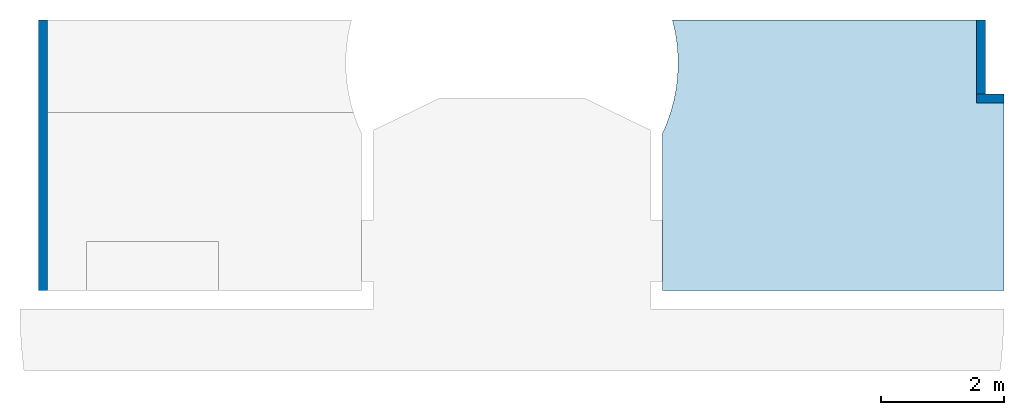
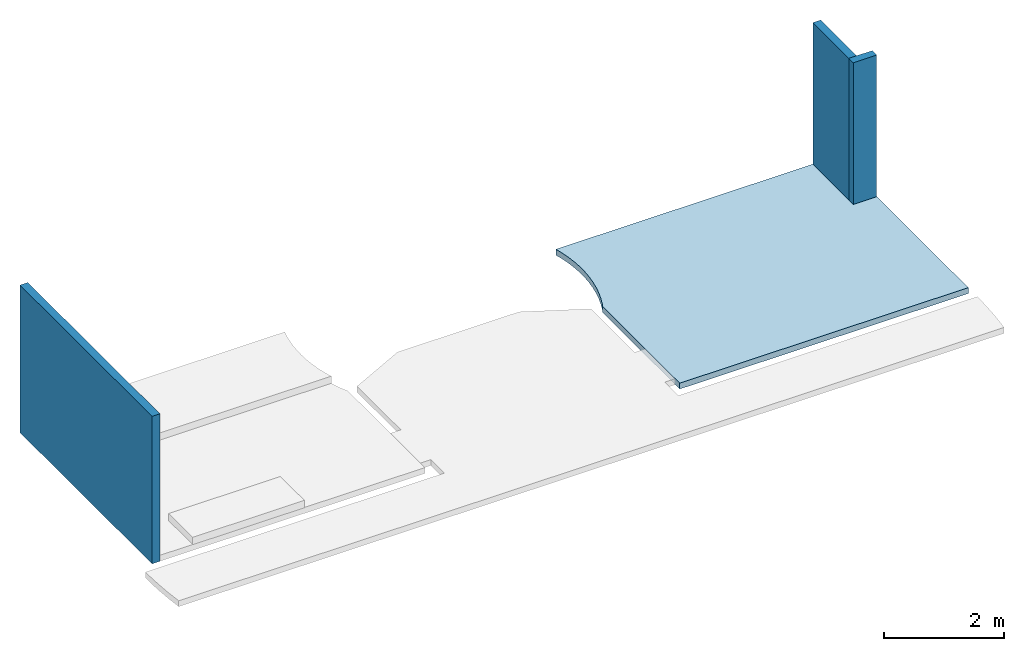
# One storey, part 3 of 3: 3 walls, 1 slab.
"""IFC4 building model written with IfcOpenShell, lengths in millimetres."""

from ifc_helpers import new_model, entity, si_unit, converted_unit, derived_unit, direction, frame, origin_with_axes, place, context, subcontext, project, spatial, polygons, material, constituent, constituent_set, type_object, element, save


model = new_model("IFC4")

# Units and contexts
model_context = context("Model", 3, precision=0.01, world=origin_with_axes(), true_north=direction((0.0, 1.0)))
body_context = subcontext(model_context, "Body", "Model", "MODEL_VIEW")
ifc_project = project(units=[si_unit("LENGTHUNIT", "METRE", prefix="MILLI"), si_unit("AREAUNIT", "SQUARE_METRE"), si_unit("VOLUMEUNIT", "CUBIC_METRE"), converted_unit("PLANEANGLEUNIT", "DEGREE", entity("IfcPlaneAngleMeasure", 0.0174532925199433), si_unit("PLANEANGLEUNIT", "RADIAN"), dimensions=[0, 0, 0, 0, 0, 0, 0]), converted_unit("TIMEUNIT", "Year", entity("IfcTimeMeasure", 31557600.0), si_unit("TIMEUNIT", "SECOND"), dimensions=[0, 0, 1, 0, 0, 0, 0]), si_unit("MASSUNIT", "GRAM", prefix="KILO"), si_unit("THERMODYNAMICTEMPERATUREUNIT", "DEGREE_CELSIUS"), si_unit("LUMINOUSINTENSITYUNIT", "LUMEN"), si_unit("ENERGYUNIT", "JOULE", prefix="MEGA"), derived_unit("THERMALCONDUCTANCEUNIT", [(si_unit("POWERUNIT", "WATT"), 1), (si_unit("LENGTHUNIT", "METRE"), -1), (si_unit("THERMODYNAMICTEMPERATUREUNIT", "KELVIN"), -1)]), derived_unit("SPECIFICHEATCAPACITYUNIT", [(si_unit("ENERGYUNIT", "JOULE"), 1), (si_unit("MASSUNIT", "GRAM", prefix="KILO"), -1), (si_unit("THERMODYNAMICTEMPERATUREUNIT", "KELVIN"), -1)]), derived_unit("MASSDENSITYUNIT", [(si_unit("MASSUNIT", "GRAM", prefix="KILO"), 1), (si_unit("VOLUMEUNIT", "CUBIC_METRE"), -1)])], contexts=[model_context])

# Site, building, storey
site_placement = place(None, origin_with_axes())
site = spatial("IfcSite", under=ifc_project, at=site_placement, Name="Exteriér", CompositionType="ELEMENT")
building_placement = place(site_placement, origin_with_axes())
building = spatial("IfcBuilding", under=site, at=building_placement, Name="Univerzitní lezecké centrum", CompositionType="ELEMENT")
storey_placement = place(building_placement, frame((0.0, 0.0, 6400.0), z_axis=(0.0, 0.0, 1.0), x_axis=(1.0, 0.0, 0.0)))
storey = spatial("IfcBuildingStorey", under=building, at=storey_placement, Name="3.NP", CompositionType="ELEMENT", Elevation=6400.0)

# Slab
ifc_material_1 = material(Name="Polyuretanová stěrka")
ifc_constituent_1 = constituent(ifc_material_1, Name="Polyuretanová stěrka")
ifc_material_2 = material(Name="Penetrační nátěr pod polyuretanovou stěrku")
ifc_constituent_2 = constituent(ifc_material_2, Name="Penetrační nátěr pod polyuretanovou stěrku")
ifc_material_3 = material(Name="Samonivelační stěrková hmota")
ifc_constituent_3 = constituent(ifc_material_3, Name="Samonivelační stěrková hmota")
ifc_material_4 = material(Name="Betonová mazanina")
ifc_constituent_4 = constituent(ifc_material_4, Name="Betonová mazanina")
ifc_material_5 = material(Name="PE fólie")
ifc_constituent_5 = constituent(ifc_material_5, Name="PE fólie")
ifc_material_6 = material(Name="Akustická izolace - EPS")
ifc_constituent_6 = constituent(ifc_material_6, Name="Akustická izolace - EPS")
ifc_constituent_set_1 = constituent_set(constituents=[ifc_constituent_1, ifc_constituent_2, ifc_constituent_3, ifc_constituent_4, ifc_constituent_5, ifc_constituent_6], Name="!Podlaha v patře - polyuretanová stěrka")
slab_type = type_object("IfcSlabType", Name="!Podlaha v patře - polyuretanová stěrka 120", PredefinedType="FLOOR")
slab_placement = place(storey_placement, frame((4899.951161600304, 149.9974528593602, 0.0), z_axis=(0.0, 0.0, 1.0), x_axis=(1.0, 0.0, 0.0)))
element("IfcSlab", 1, at=slab_placement, inside=storey, type_object=slab_type, material=ifc_constituent_set_1, Name="P03", PredefinedType="FLOOR", context=body_context, shape_type="Tessellation", body=[
    polygons([(0.0, -149.9974528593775, -1.000000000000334), (0.0, -149.9974528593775, 0.0), (0.0, 0.0, 0.0), (0.0, 0.0, -1.000000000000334), (5549.900487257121, -149.9974528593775, -1.000000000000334), (5549.900487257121, -149.9974528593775, 0.0), (5549.900487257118, 2900.002547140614, 0.0), (5099.900487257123, 2900.002547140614, 0.0), (5099.900487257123, 4250.00254714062, 0.0), (157.581449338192, 4250.002547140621, 0.0), (193.554826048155, 4104.869979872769, 0.0), (222.4644651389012, 3942.67023748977, 0.0), (241.4319906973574, 3779.009745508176, 0.0), (250.3868422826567, 3614.497331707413, 0.0), (249.2957072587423, 3449.744993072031, 0.0), (238.1626447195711, 3285.36561912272, 0.0), (217.0290703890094, 3121.970711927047, 0.0), (185.9736025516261, 2960.168111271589, 0.0), (145.1117695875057, 2800.559733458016, 0.0), (94.59558019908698, 2643.739332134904, 0.0), (34.61295792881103, 2490.290289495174, 0.0), (0.0, 2415.536867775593, 0.0), (0.0, 999.9999999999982, 0.0), (0.0, 999.9999999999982, -1.000000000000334), (0.0, 2415.536867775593, -1.000000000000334), (34.61295792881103, 2490.290289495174, -1.000000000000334), (94.59558019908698, 2643.739332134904, -1.000000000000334), (145.1117695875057, 2800.559733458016, -1.000000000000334), (185.9736025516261, 2960.168111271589, -1.000000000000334), (217.0290703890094, 3121.970711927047, -1.000000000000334), (238.1626447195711, 3285.36561912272, -1.000000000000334), (249.2957072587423, 3449.744993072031, -1.000000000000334), (250.3868422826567, 3614.497331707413, -1.000000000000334), (241.4319906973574, 3779.009745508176, -1.000000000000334), (222.4644651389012, 3942.67023748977, -1.000000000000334), (193.554826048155, 4104.869979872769, -1.000000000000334), (157.581449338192, 4250.002547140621, -1.000000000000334), (5099.900487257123, 4250.00254714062, -1.000000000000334), (5099.900487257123, 2900.002547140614, -1.000000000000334), (5549.900487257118, 2900.002547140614, -1.000000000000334)], [[[1, 2, 3, 4]], [[5, 6, 2, 1]], [[3, 2, 6, 7, 8, 9, 10, 11, 12, 13, 14, 15, 16, 17, 18, 19, 20, 21, 22, 23]], [[4, 3, 23, 24]], [[4, 24, 25, 26, 27, 28, 29, 30, 31, 32, 33, 34, 35, 36, 37, 38, 39, 40, 5, 1]], [[40, 7, 6, 5]], [[39, 8, 7, 40]], [[38, 9, 8, 39]], [[37, 10, 9, 38]], [[36, 11, 10, 37]], [[35, 12, 11, 36]], [[34, 13, 12, 35]], [[33, 14, 13, 34]], [[32, 15, 14, 33]], [[31, 16, 15, 32]], [[30, 17, 16, 31]], [[29, 18, 17, 30]], [[28, 19, 18, 29]], [[27, 20, 19, 28]], [[26, 21, 20, 27]], [[25, 22, 21, 26]], [[24, 23, 22, 25]]], closed=True),
    polygons([(0.0, -149.9974528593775, -2.000000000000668), (0.0, -149.9974528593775, -1.000000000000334), (0.0, 0.0, -1.000000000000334), (0.0, 0.0, -2.000000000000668), (5549.900487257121, -149.9974528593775, -2.000000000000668), (5549.900487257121, -149.9974528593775, -1.000000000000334), (5549.900487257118, 2900.002547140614, -1.000000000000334), (5099.900487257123, 2900.002547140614, -1.000000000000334), (5099.900487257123, 4250.00254714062, -1.000000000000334), (157.581449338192, 4250.002547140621, -1.000000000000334), (193.554826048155, 4104.869979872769, -1.000000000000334), (222.4644651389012, 3942.67023748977, -1.000000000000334), (241.4319906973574, 3779.009745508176, -1.000000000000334), (250.3868422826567, 3614.497331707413, -1.000000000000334), (249.2957072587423, 3449.744993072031, -1.000000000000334), (238.1626447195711, 3285.36561912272, -1.000000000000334), (217.0290703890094, 3121.970711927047, -1.000000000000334), (185.9736025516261, 2960.168111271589, -1.000000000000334), (145.1117695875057, 2800.559733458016, -1.000000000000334), (94.59558019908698, 2643.739332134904, -1.000000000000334), (34.61295792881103, 2490.290289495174, -1.000000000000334), (0.0, 2415.536867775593, -1.000000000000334), (0.0, 999.9999999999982, -1.000000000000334), (0.0, 999.9999999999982, -2.000000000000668), (0.0, 2415.536867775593, -2.000000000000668), (34.61295792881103, 2490.290289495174, -2.000000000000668), (94.59558019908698, 2643.739332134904, -2.000000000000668), (145.1117695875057, 2800.559733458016, -2.000000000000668), (185.9736025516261, 2960.168111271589, -2.000000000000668), (217.0290703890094, 3121.970711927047, -2.000000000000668), (238.1626447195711, 3285.36561912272, -2.000000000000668), (249.2957072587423, 3449.744993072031, -2.000000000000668), (250.3868422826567, 3614.497331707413, -2.000000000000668), (241.4319906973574, 3779.009745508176, -2.000000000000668), (222.4644651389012, 3942.67023748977, -2.000000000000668), (193.554826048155, 4104.869979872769, -2.000000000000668), (157.581449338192, 4250.002547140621, -2.000000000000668), (5099.900487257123, 4250.00254714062, -2.000000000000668), (5099.900487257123, 2900.002547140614, -2.000000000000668), (5549.900487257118, 2900.002547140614, -2.000000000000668)], [[[1, 2, 3, 4]], [[5, 6, 2, 1]], [[3, 2, 6, 7, 8, 9, 10, 11, 12, 13, 14, 15, 16, 17, 18, 19, 20, 21, 22, 23]], [[4, 3, 23, 24]], [[4, 24, 25, 26, 27, 28, 29, 30, 31, 32, 33, 34, 35, 36, 37, 38, 39, 40, 5, 1]], [[40, 7, 6, 5]], [[39, 8, 7, 40]], [[38, 9, 8, 39]], [[37, 10, 9, 38]], [[36, 11, 10, 37]], [[35, 12, 11, 36]], [[34, 13, 12, 35]], [[33, 14, 13, 34]], [[32, 15, 14, 33]], [[31, 16, 15, 32]], [[30, 17, 16, 31]], [[29, 18, 17, 30]], [[28, 19, 18, 29]], [[27, 20, 19, 28]], [[26, 21, 20, 27]], [[25, 22, 21, 26]], [[24, 23, 22, 25]]], closed=True),
    polygons([(0.0, -149.9974528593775, -4.999999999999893), (0.0, -149.9974528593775, -1.99999999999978), (0.0, 0.0, -1.99999999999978), (0.0, 0.0, -4.999999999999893), (5549.900487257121, -149.9974528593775, -4.999999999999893), (5549.900487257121, -149.9974528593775, -1.99999999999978), (5549.900487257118, 2900.002547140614, -1.99999999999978), (5099.900487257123, 2900.002547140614, -1.99999999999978), (5099.900487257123, 4250.00254714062, -1.99999999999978), (157.581449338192, 4250.002547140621, -1.99999999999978), (193.554826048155, 4104.869979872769, -1.99999999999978), (222.4644651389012, 3942.67023748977, -1.99999999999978), (241.4319906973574, 3779.009745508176, -1.99999999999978), (250.3868422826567, 3614.497331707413, -1.99999999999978), (249.2957072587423, 3449.744993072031, -1.99999999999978), (238.1626447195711, 3285.36561912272, -1.99999999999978), (217.0290703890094, 3121.970711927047, -1.99999999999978), (185.9736025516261, 2960.168111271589, -1.99999999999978), (145.1117695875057, 2800.559733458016, -1.99999999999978), (94.59558019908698, 2643.739332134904, -1.99999999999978), (34.61295792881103, 2490.290289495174, -1.99999999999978), (0.0, 2415.536867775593, -1.99999999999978), (0.0, 999.9999999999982, -1.99999999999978), (0.0, 999.9999999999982, -4.999999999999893), (0.0, 2415.536867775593, -4.999999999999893), (34.61295792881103, 2490.290289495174, -4.999999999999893), (94.59558019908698, 2643.739332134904, -4.999999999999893), (145.1117695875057, 2800.559733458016, -4.999999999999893), (185.9736025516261, 2960.168111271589, -4.999999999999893), (217.0290703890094, 3121.970711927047, -4.999999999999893), (238.1626447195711, 3285.36561912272, -4.999999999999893), (249.2957072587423, 3449.744993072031, -4.999999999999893), (250.3868422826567, 3614.497331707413, -4.999999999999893), (241.4319906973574, 3779.009745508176, -4.999999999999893), (222.4644651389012, 3942.67023748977, -4.999999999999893), (193.554826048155, 4104.869979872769, -4.999999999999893), (157.581449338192, 4250.002547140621, -4.999999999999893), (5099.900487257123, 4250.00254714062, -4.999999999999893), (5099.900487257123, 2900.002547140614, -4.999999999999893), (5549.900487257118, 2900.002547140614, -4.999999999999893)], [[[1, 2, 3, 4]], [[5, 6, 2, 1]], [[3, 2, 6, 7, 8, 9, 10, 11, 12, 13, 14, 15, 16, 17, 18, 19, 20, 21, 22, 23]], [[4, 3, 23, 24]], [[4, 24, 25, 26, 27, 28, 29, 30, 31, 32, 33, 34, 35, 36, 37, 38, 39, 40, 5, 1]], [[40, 7, 6, 5]], [[39, 8, 7, 40]], [[38, 9, 8, 39]], [[37, 10, 9, 38]], [[36, 11, 10, 37]], [[35, 12, 11, 36]], [[34, 13, 12, 35]], [[33, 14, 13, 34]], [[32, 15, 14, 33]], [[31, 16, 15, 32]], [[30, 17, 16, 31]], [[29, 18, 17, 30]], [[28, 19, 18, 29]], [[27, 20, 19, 28]], [[26, 21, 20, 27]], [[25, 22, 21, 26]], [[24, 23, 22, 25]]], closed=True),
    polygons([(0.0, -149.9974528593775, -78.99999999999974), (0.0, -149.9974528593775, -4.999999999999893), (0.0, 0.0, -4.999999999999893), (0.0, 0.0, -78.99999999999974), (5549.900487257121, -149.9974528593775, -78.99999999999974), (5549.900487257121, -149.9974528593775, -4.999999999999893), (5549.900487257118, 2900.002547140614, -4.999999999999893), (5099.900487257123, 2900.002547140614, -4.999999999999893), (5099.900487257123, 4250.00254714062, -4.999999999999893), (157.581449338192, 4250.002547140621, -4.999999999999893), (193.554826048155, 4104.869979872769, -4.999999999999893), (222.4644651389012, 3942.67023748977, -4.999999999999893), (241.4319906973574, 3779.009745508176, -4.999999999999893), (250.3868422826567, 3614.497331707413, -4.999999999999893), (249.2957072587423, 3449.744993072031, -4.999999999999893), (238.1626447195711, 3285.36561912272, -4.999999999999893), (217.0290703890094, 3121.970711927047, -4.999999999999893), (185.9736025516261, 2960.168111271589, -4.999999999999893), (145.1117695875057, 2800.559733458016, -4.999999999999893), (94.59558019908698, 2643.739332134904, -4.999999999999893), (34.61295792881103, 2490.290289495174, -4.999999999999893), (0.0, 2415.536867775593, -4.999999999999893), (0.0, 999.9999999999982, -4.999999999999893), (0.0, 999.9999999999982, -78.99999999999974), (0.0, 2415.536867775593, -78.99999999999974), (34.61295792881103, 2490.290289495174, -78.99999999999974), (94.59558019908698, 2643.739332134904, -78.99999999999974), (145.1117695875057, 2800.559733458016, -78.99999999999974), (185.9736025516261, 2960.168111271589, -78.99999999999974), (217.0290703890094, 3121.970711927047, -78.99999999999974), (238.1626447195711, 3285.36561912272, -78.99999999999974), (249.2957072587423, 3449.744993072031, -78.99999999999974), (250.3868422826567, 3614.497331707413, -78.99999999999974), (241.4319906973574, 3779.009745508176, -78.99999999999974), (222.4644651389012, 3942.67023748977, -78.99999999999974), (193.554826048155, 4104.869979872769, -78.99999999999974), (157.581449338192, 4250.002547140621, -78.99999999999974), (5099.900487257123, 4250.00254714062, -78.99999999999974), (5099.900487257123, 2900.002547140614, -78.99999999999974), (5549.900487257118, 2900.002547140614, -78.99999999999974)], [[[1, 2, 3, 4]], [[5, 6, 2, 1]], [[3, 2, 6, 7, 8, 9, 10, 11, 12, 13, 14, 15, 16, 17, 18, 19, 20, 21, 22, 23]], [[4, 3, 23, 24]], [[4, 24, 25, 26, 27, 28, 29, 30, 31, 32, 33, 34, 35, 36, 37, 38, 39, 40, 5, 1]], [[40, 7, 6, 5]], [[39, 8, 7, 40]], [[38, 9, 8, 39]], [[37, 10, 9, 38]], [[36, 11, 10, 37]], [[35, 12, 11, 36]], [[34, 13, 12, 35]], [[33, 14, 13, 34]], [[32, 15, 14, 33]], [[31, 16, 15, 32]], [[30, 17, 16, 31]], [[29, 18, 17, 30]], [[28, 19, 18, 29]], [[27, 20, 19, 28]], [[26, 21, 20, 27]], [[25, 22, 21, 26]], [[24, 23, 22, 25]]], closed=True),
    polygons([(0.0, -149.9974528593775, -79.49999999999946), (0.0, -149.9974528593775, -78.99999999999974), (0.0, 0.0, -78.99999999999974), (0.0, 0.0, -79.49999999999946), (5549.900487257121, -149.9974528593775, -79.49999999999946), (5549.900487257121, -149.9974528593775, -78.99999999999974), (5549.900487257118, 2900.002547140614, -78.99999999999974), (5099.900487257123, 2900.002547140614, -78.99999999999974), (5099.900487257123, 4250.00254714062, -78.99999999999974), (157.581449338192, 4250.002547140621, -78.99999999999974), (193.554826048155, 4104.869979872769, -78.99999999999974), (222.4644651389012, 3942.67023748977, -78.99999999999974), (241.4319906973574, 3779.009745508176, -78.99999999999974), (250.3868422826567, 3614.497331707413, -78.99999999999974), (249.2957072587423, 3449.744993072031, -78.99999999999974), (238.1626447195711, 3285.36561912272, -78.99999999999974), (217.0290703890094, 3121.970711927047, -78.99999999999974), (185.9736025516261, 2960.168111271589, -78.99999999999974), (145.1117695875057, 2800.559733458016, -78.99999999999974), (94.59558019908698, 2643.739332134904, -78.99999999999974), (34.61295792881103, 2490.290289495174, -78.99999999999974), (0.0, 2415.536867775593, -78.99999999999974), (0.0, 999.9999999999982, -78.99999999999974), (0.0, 999.9999999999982, -79.49999999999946), (0.0, 2415.536867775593, -79.49999999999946), (34.61295792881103, 2490.290289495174, -79.49999999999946), (94.59558019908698, 2643.739332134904, -79.49999999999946), (145.1117695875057, 2800.559733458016, -79.49999999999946), (185.9736025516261, 2960.168111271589, -79.49999999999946), (217.0290703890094, 3121.970711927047, -79.49999999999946), (238.1626447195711, 3285.36561912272, -79.49999999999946), (249.2957072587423, 3449.744993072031, -79.49999999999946), (250.3868422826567, 3614.497331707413, -79.49999999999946), (241.4319906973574, 3779.009745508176, -79.49999999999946), (222.4644651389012, 3942.67023748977, -79.49999999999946), (193.554826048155, 4104.869979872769, -79.49999999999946), (157.581449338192, 4250.002547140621, -79.49999999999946), (5099.900487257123, 4250.00254714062, -79.49999999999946), (5099.900487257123, 2900.002547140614, -79.49999999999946), (5549.900487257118, 2900.002547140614, -79.49999999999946)], [[[1, 2, 3, 4]], [[5, 6, 2, 1]], [[3, 2, 6, 7, 8, 9, 10, 11, 12, 13, 14, 15, 16, 17, 18, 19, 20, 21, 22, 23]], [[4, 3, 23, 24]], [[4, 24, 25, 26, 27, 28, 29, 30, 31, 32, 33, 34, 35, 36, 37, 38, 39, 40, 5, 1]], [[40, 7, 6, 5]], [[39, 8, 7, 40]], [[38, 9, 8, 39]], [[37, 10, 9, 38]], [[36, 11, 10, 37]], [[35, 12, 11, 36]], [[34, 13, 12, 35]], [[33, 14, 13, 34]], [[32, 15, 14, 33]], [[31, 16, 15, 32]], [[30, 17, 16, 31]], [[29, 18, 17, 30]], [[28, 19, 18, 29]], [[27, 20, 19, 28]], [[26, 21, 20, 27]], [[25, 22, 21, 26]], [[24, 23, 22, 25]]], closed=True),
    polygons([(0.0, 0.0, -119.5000000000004), (0.0, -149.9974528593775, -119.5000000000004), (0.0, -149.9974528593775, -79.50000000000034), (0.0, 0.0, -79.50000000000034), (0.0, 999.9999999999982, -119.5000000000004), (0.0, 2415.536867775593, -119.5000000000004), (34.61295792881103, 2490.290289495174, -119.5000000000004), (94.59558019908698, 2643.739332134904, -119.5000000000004), (145.1117695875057, 2800.559733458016, -119.5000000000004), (185.9736025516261, 2960.168111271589, -119.5000000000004), (217.0290703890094, 3121.970711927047, -119.5000000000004), (238.1626447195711, 3285.36561912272, -119.5000000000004), (249.2957072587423, 3449.744993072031, -119.5000000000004), (250.3868422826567, 3614.497331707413, -119.5000000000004), (241.4319906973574, 3779.009745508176, -119.5000000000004), (222.4644651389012, 3942.67023748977, -119.5000000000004), (193.554826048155, 4104.869979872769, -119.5000000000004), (157.581449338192, 4250.002547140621, -119.5000000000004), (5099.900487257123, 4250.00254714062, -119.5000000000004), (5099.900487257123, 2900.002547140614, -119.5000000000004), (5549.900487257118, 2900.002547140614, -119.5000000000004), (5549.900487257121, -149.9974528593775, -119.5000000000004), (5549.900487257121, -149.9974528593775, -79.50000000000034), (5549.900487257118, 2900.002547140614, -79.50000000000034), (5099.900487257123, 2900.002547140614, -79.50000000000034), (5099.900487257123, 4250.00254714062, -79.50000000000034), (157.581449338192, 4250.002547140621, -79.50000000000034), (193.554826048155, 4104.869979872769, -79.50000000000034), (222.4644651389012, 3942.67023748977, -79.50000000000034), (241.4319906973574, 3779.009745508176, -79.50000000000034), (250.3868422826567, 3614.497331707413, -79.50000000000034), (249.2957072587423, 3449.744993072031, -79.50000000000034), (238.1626447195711, 3285.36561912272, -79.50000000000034), (217.0290703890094, 3121.970711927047, -79.50000000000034), (185.9736025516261, 2960.168111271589, -79.50000000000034), (145.1117695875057, 2800.559733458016, -79.50000000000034), (94.59558019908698, 2643.739332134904, -79.50000000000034), (34.61295792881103, 2490.290289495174, -79.50000000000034), (0.0, 2415.536867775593, -79.50000000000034), (0.0, 999.9999999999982, -79.50000000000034)], [[[1, 2, 3, 4]], [[1, 5, 6, 7, 8, 9, 10, 11, 12, 13, 14, 15, 16, 17, 18, 19, 20, 21, 22, 2]], [[2, 22, 23, 3]], [[4, 3, 23, 24, 25, 26, 27, 28, 29, 30, 31, 32, 33, 34, 35, 36, 37, 38, 39, 40]], [[5, 1, 4, 40]], [[6, 5, 40, 39]], [[7, 6, 39, 38]], [[8, 7, 38, 37]], [[9, 8, 37, 36]], [[10, 9, 36, 35]], [[11, 10, 35, 34]], [[12, 11, 34, 33]], [[13, 12, 33, 32]], [[14, 13, 32, 31]], [[15, 14, 31, 30]], [[16, 15, 30, 29]], [[17, 16, 29, 28]], [[18, 17, 28, 27]], [[19, 18, 27, 26]], [[20, 19, 26, 25]], [[21, 20, 25, 24]], [[22, 21, 24, 23]]], closed=True),
])

# Walls
ifc_material_7 = material(Name="Keramické tvárnice nenosné tl. 150 mm")
ifc_constituent_7 = constituent(ifc_material_7, Name="Keramické tvárnice nenosné tl. 150 mm")
ifc_constituent_set_2 = constituent_set(constituents=[ifc_constituent_7], Name="!Vnitřní keramická stěna 150 mm - nenosná")
wall_type = type_object("IfcWallType", Name="!Vnitřní keramická stěna 150 mm - nenosná 150", PredefinedType="NOTDEFINED")
wall_1_placement = place(storey_placement, frame((10449.85164885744, 3199.999999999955, -120.000000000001), z_axis=(0.0, 0.0, 1.0), x_axis=(-1.0, 0.0, 0.0)))
element("IfcWall", 2, at=wall_1_placement, inside=storey, type_object=wall_type, material=ifc_constituent_set_2, Name="St07", PredefinedType="NOTDEFINED", context=body_context, shape_type="Tessellation", body=[
    polygons([(449.9999999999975, 149.9999999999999, 3000.000000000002), (0.0, 150.0000000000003, 3000.000000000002), (0.0, 0.0, 3000.000000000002), (449.9999999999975, 0.0, 3000.000000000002), (449.9999999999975, 149.9999999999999, 0.0), (0.0, 149.9999999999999, 0.0), (0.0, 0.0, 0.0), (449.9999999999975, 0.0, 0.0)], [[[1, 2, 3, 4]], [[5, 6, 2, 1]], [[3, 2, 6, 7]], [[4, 3, 7, 8]], [[4, 8, 5, 1]], [[8, 7, 6, 5]]], closed=True),
])
ifc_constituent_8 = constituent(ifc_material_7, Name="Keramické tvárnice nenosné tl. 150 mm")
ifc_constituent_set_3 = constituent_set(constituents=[ifc_constituent_8], Name="!Vnitřní keramická stěna 150 mm - nenosná")
wall_2_placement = place(storey_placement, frame((-5250.148351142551, 4700.000000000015, -120.000000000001), z_axis=(0.0, 0.0, 1.0), x_axis=(0.0, -1.0, 0.0)))
element("IfcWall", 3, at=wall_2_placement, inside=storey, type_object=wall_type, material=ifc_constituent_set_3, Name="St07", PredefinedType="NOTDEFINED", context=body_context, shape_type="Tessellation", body=[
    polygons([(4699.999999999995, 0.0, 3000.000000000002), (4699.999999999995, 149.9999999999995, 3000.000000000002), (299.9999999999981, 150.0000000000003, 3000.000000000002), (299.9999999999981, 0.0, 3000.000000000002), (4699.999999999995, 0.0, 0.0), (4699.999999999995, 149.9999999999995, 0.0), (299.9999999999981, 150.0000000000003, 0.0), (299.9999999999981, 0.0, 0.0)], [[[1, 2, 3, 4]], [[2, 1, 5, 6]], [[2, 6, 7, 3]], [[8, 4, 3, 7]], [[5, 1, 4, 8]], [[6, 5, 8, 7]]], closed=True),
])
ifc_constituent_9 = constituent(ifc_material_7, Name="Keramické tvárnice nenosné tl. 150 mm")
ifc_constituent_set_4 = constituent_set(constituents=[ifc_constituent_9], Name="!Vnitřní keramická stěna 150 mm - nenosná")
wall_3_placement = place(storey_placement, frame((10149.85164885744, 4699.999999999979, -120.000000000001), z_axis=(0.0, 0.0, 1.0), x_axis=(0.0, -1.0, 0.0)))
element("IfcWall", 4, at=wall_3_placement, inside=storey, type_object=wall_type, material=ifc_constituent_set_4, Name="St07", PredefinedType="NOTDEFINED", context=body_context, shape_type="Tessellation", body=[
    polygons([(300.0000000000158, -150.0000000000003, 3000.000000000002), (300.0000000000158, 0.0, 3000.000000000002), (300.0000000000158, 0.0, 0.0), (300.0000000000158, -150.0000000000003, 0.0), (1500.000000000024, 0.0, 3000.000000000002), (1500.000000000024, -150.0000000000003, 3000.000000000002), (1500.000000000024, 0.0, 0.0), (1500.000000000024, -150.0000000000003, 0.0)], [[[1, 2, 3, 4]], [[5, 2, 1, 6]], [[2, 5, 7, 3]], [[3, 7, 8, 4]], [[6, 1, 4, 8]], [[5, 6, 8, 7]]], closed=True),
])

save(model, "model.ifc")
